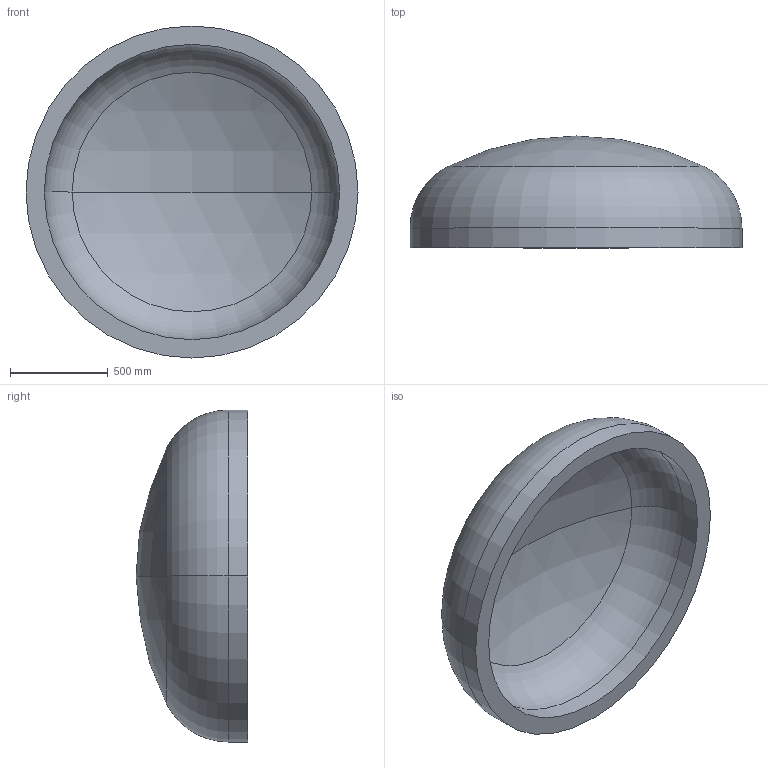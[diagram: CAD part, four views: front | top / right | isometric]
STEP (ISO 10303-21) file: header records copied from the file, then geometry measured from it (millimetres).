
FILE_DESCRIPTION (( 'STEP AP203' ), '1' );
FILE_NAME ('DIN 28013 Korbbogenform_-_Boden DIN 28013 - 1700 x 100 - I - s=94.step', '2016-07-01T12:06:26', ( '' ), ( '' ), 'SwSTEP 2.0', 'SolidWorks 2013', '' );
FILE_SCHEMA (( 'CONFIG_CONTROL_DESIGN' ));
Length unit declared in the file: millimetre
Products named in the file (1): DIN 28013 Korbbogenform_-_Boden DIN 28013 - 1700 x 100 - I - s=94
Bounding box: 1700 x 572.17 x 1700 mm (x, y, z)
Volume: 322355279.4 mm3; surface area: 7351394.7 mm2
Topology: 1 solids, 1 shells, 13 faces, 24 edges, 14 vertices
Faces by surface type: torus 4, cylinder 4, sphere 4, plane 1
Entity records: 407 total; most frequent: DIRECTION 72, CARTESIAN_POINT 52, ORIENTED_EDGE 48, AXIS2_PLACEMENT_3D 34, EDGE_CURVE 24, CIRCLE 20, EDGE_LOOP 14, VERTEX_POINT 14
